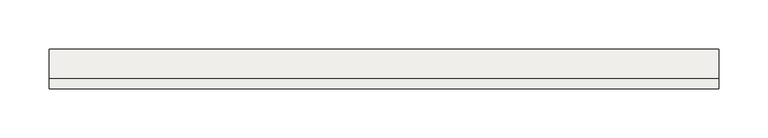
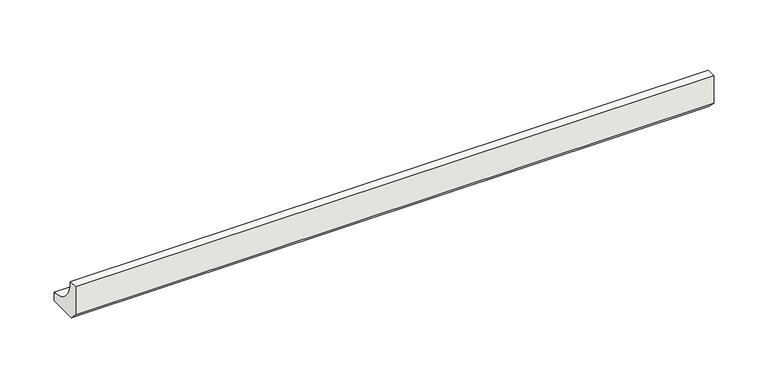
"""IFC4 building model written with IfcOpenShell, lengths in millimetres: slab geometry, ROSA GRES_188 : Pieza 188_Tresor_Bali_Anti-Slip."""

from ifc_helpers import new_model, si_unit, point, frame, frame_2d, origin, place, context, project, spatial, polyline, circle_curve, trimmed, segment, composite_curve, outline, extrude, source, transform, mapped, element, save


def slab_ce24003f(model_context):
    return source(origin(), model_context, "Body", "SweptSolid", [
        extrude(outline(composite_curve([segment(polyline([(0.0, 8.7114978), (0.0, 40.0), (9.9734114, 40.0)]), True, "CONTINUOUS"), segment(trimmed(circle_curve(frame_2d((39.9955547, 39.9955547)), 30.0221435), [point((9.9734114, 40.0))], [point((40.0, 9.9734114))], True, "CARTESIAN"), True, "CONTINUOUS"), segment(polyline([(40.0, 9.9734114), (40.0, 0.0), (8.7114978, 0.0), (0.0, 8.7114978)]), True, "CONTINUOUS")], self_intersect=False)), frame((0.0, 0.0, 0.0), z_axis=(1.0, 0.0, 0.0), x_axis=(0.0, 1.0, 0.0)), (0.0, 0.0, 1.0), 680.7234114),
    ])


if __name__ == "__main__":
    model = new_model("IFC4")
    model_context = context("Model", 3, world=origin())
    ifc_project = project(units=[si_unit("LENGTHUNIT", "METRE", prefix="MILLI")], contexts=[model_context])
    site = spatial("IfcSite", under=ifc_project)
    building = spatial("IfcBuilding", under=site)
    placement = place(None, origin())
    slab_shape = slab_ce24003f(model_context)
    element("IfcSlab", 1, ObjectType="ROSA GRES_188 : Pieza 188_Tresor_Bali_Anti-Slip", at=placement, inside=building, context=model_context, shape_type="MappedRepresentation", body=[
        mapped(slab_shape, transform((0.0, 0.0, 0.0), x_axis=(1.0, 0.0, 0.0), y_axis=(0.0, 1.0, 0.0), z_axis=(0.0, 0.0, 1.0))),
    ])
    save(model, "model.ifc")
